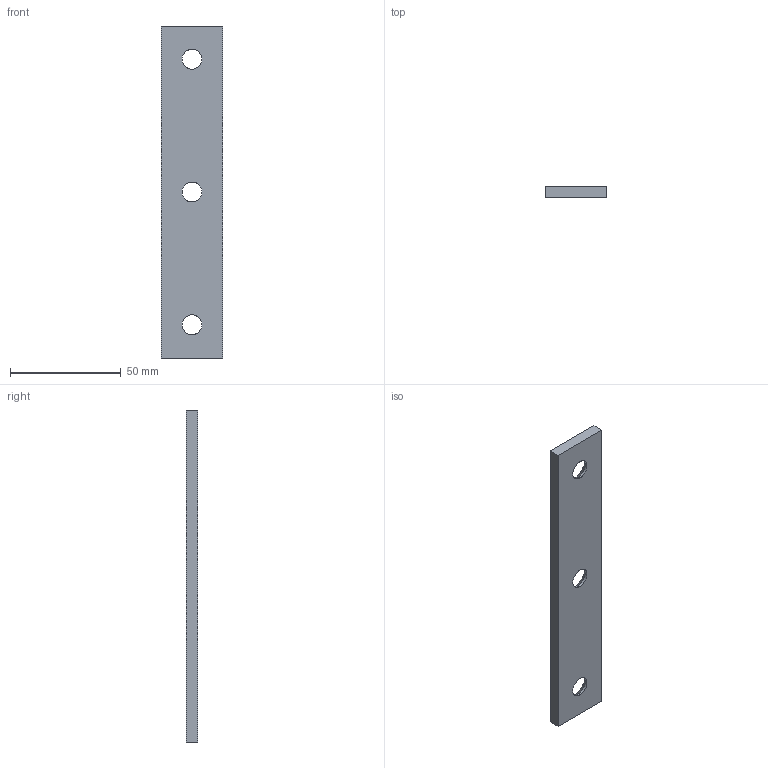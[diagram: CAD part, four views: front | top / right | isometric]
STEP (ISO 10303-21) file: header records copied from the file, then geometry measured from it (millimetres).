
FILE_DESCRIPTION(('CATIA V5 STEP Exchange'),'2;1');
FILE_NAME('C:\Users\Utente\Desktop\3D files A605\A605-028-150.stp','2020-04-13T15:45:06+00:00',('none'),('none'),'CATIA Version 5 Release 20 GA (IN-10)','CATIA V5 STEP AP203','none');
FILE_SCHEMA(('CONFIG_CONTROL_DESIGN'));
Length unit declared in the file: millimetre
Products named in the file (1): Noname
Bounding box: 28 x 5 x 150 mm (x, y, z)
Surface area: 10086.1 mm2 (no closed solid volume)
Topology: 0 solids, 12 shells, 18 faces, 72 edges, 60 vertices
Faces by surface type: extrusion 6, cylinder 6, revolution 6
Entity records: 936 total; most frequent: CARTESIAN_POINT 319, DIRECTION 84, ORIENTED_EDGE 84, EDGE_CURVE 72, VERTEX_POINT 60, VECTOR 42, LINE 36, AXIS2_PLACEMENT_3D 31
